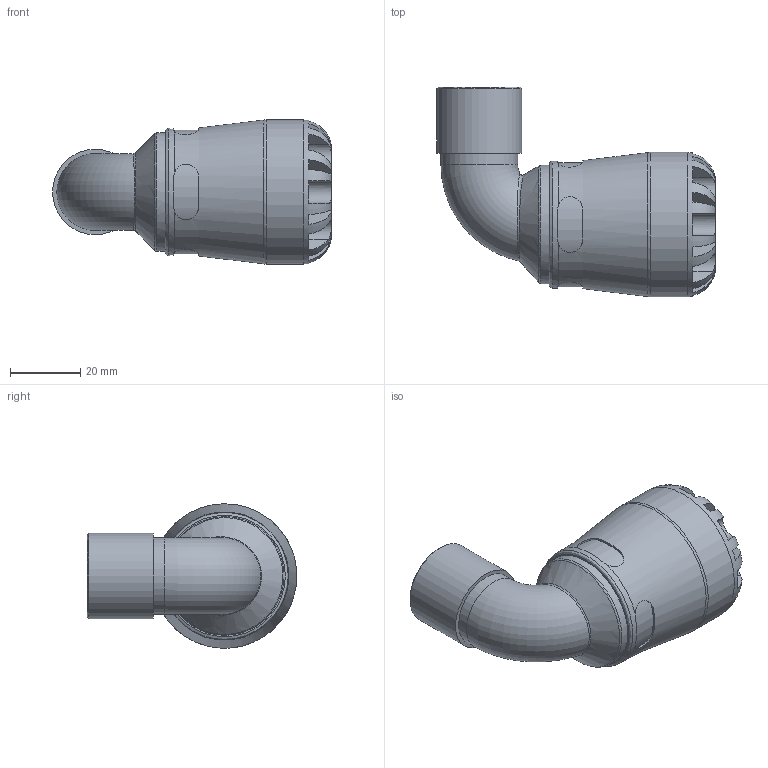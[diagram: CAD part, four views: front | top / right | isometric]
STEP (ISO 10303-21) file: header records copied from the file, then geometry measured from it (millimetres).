
FILE_DESCRIPTION(/* description */ ('PLASSON 90° ELBOW WITH THREADED FEMALE OFFTAKE 20X1/2" SERIES 1'),/* implementation_level */ '2;1');
FILE_NAME(/* name */ 'C:\Dropbox\KIMPROJECTS-Inventor\99-16-3568-Processing\S1\1015\101500020005_191500020005.ipt.stp',/* time_stamp */ '2017-07-30T11:51:52+03:00',/* author */ ('KIM'),/* organization */ (''),/* preprocessor_version */ 'ST-DEVELOPER v15.6',/* originating_system */ 'Autodesk Inventor 2015',/* authorisation */ '');
FILE_SCHEMA (('AUTOMOTIVE_DESIGN { 1 0 10303 214 3 1 1 }'));
Length unit declared in the file: millimetre
Products named in the file (1): 101500020005_191500020005
Bounding box: 79.11 x 59.5 x 41 mm (x, y, z)
Volume: 49102.6 mm3; surface area: 17863 mm2
Topology: 1 solids, 1 shells, 110 faces, 276 edges, 172 vertices
Faces by surface type: plane 62, cylinder 37, torus 6, bspline 3, cone 2
Full cylindrical faces by diameter (mm): 16.768 x2, 18.631 x1, 20 x1, 21.798 x1, 24.22 x1, 33.62 x1, 36.08 x1, 41 x1
Entity records: 4256 total; most frequent: CARTESIAN_POINT 1774, ORIENTED_EDGE 510, DIRECTION 493, EDGE_CURVE 255, AXIS2_PLACEMENT_3D 206, VERTEX_POINT 168, EDGE_LOOP 133, FACE_OUTER_BOUND 110
